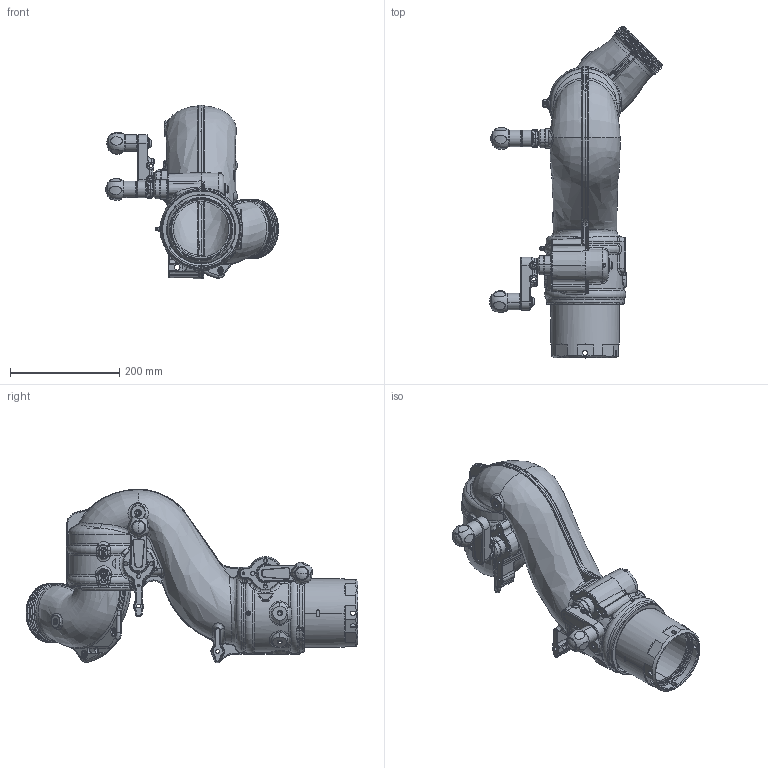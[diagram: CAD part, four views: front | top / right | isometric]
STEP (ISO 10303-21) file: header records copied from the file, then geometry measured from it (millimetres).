
FILE_DESCRIPTION (( 'STEP AP203' ), '1' );
FILE_NAME ('Y5-DP1A-Z_45_Up.STEP', '2014-07-03T16:51:56', ( '' ), ( '' ), 'SwSTEP 2.0', 'SolidWorks 2014', '' );
FILE_SCHEMA (( 'CONFIG_CONTROL_DESIGN' ));
Products named in the file (1): Y5-DP1A-Z_45_Up
Bounding box: 317.53 x 608.88 x 318.53 mm (x, y, z)
Surface area: 584178.1 mm2 (no closed solid volume)
Topology: 0 solids, 55 shells, 1737 faces, 4831 edges, 3035 vertices
Faces by surface type: bspline 409, plane 367, cylinder 313, cone 312, torus 293, sphere 43
Entity records: 135726 total; most frequent: CARTESIAN_POINT 94991, ORIENTED_EDGE 8571, DIRECTION 7991, EDGE_CURVE 4812, AXIS2_PLACEMENT_3D 3321, VERTEX_POINT 3031, CIRCLE 1992, EDGE_LOOP 1852
